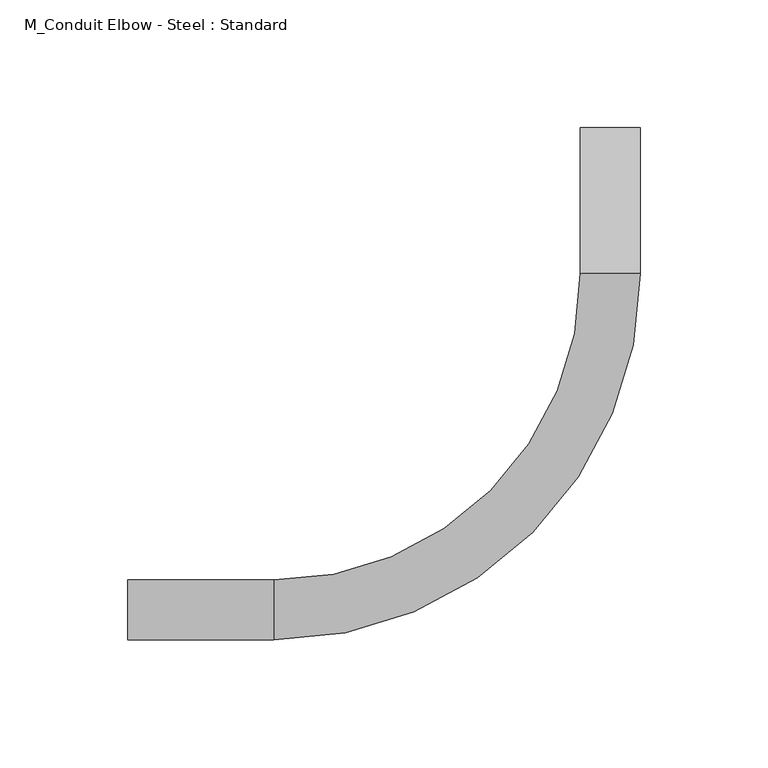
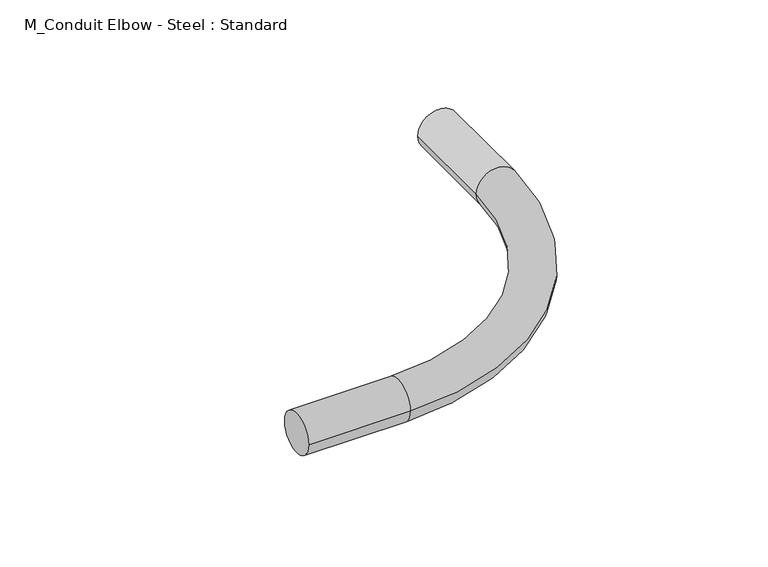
"""IFC4 building model written with IfcOpenShell, lengths in millimetres: cable carrier fitting geometry, M_Conduit Elbow - Steel : Standard."""

from ifc_helpers import new_model, si_unit, point, frame, origin, place, context, project, spatial, circle_curve, ellipse_curve, trimmed, source, transform, mapped, element, save
from ifc_brep_helpers import plane_surface, cylinder_surface, revolved_surface, advanced_brep


def m_conduit_elbow_steel_standard_2493cfc3(model_context):
    return source(origin(), model_context, "Body", "AdvancedBrep", [
        advanced_brep(
        [(-188.9134202, -11.7094, 0.0), (-188.9134202, 11.7094, 0.0), (-131.7634202, -11.7094, 0.0), (-131.7634202, 11.7094, 0.0), (-11.7103202, 131.7633384, 0.0), (11.7084798, 131.7635019, 0.0), (11.7080807, 188.9135019, 0.0), (-11.7107193, 188.9133384, 0.0)],
        [
            (0, 1, circle_curve(frame((-188.9134202, 0.0, 0.0), z_axis=(-1.0, 0.0, 0.0), x_axis=(0.0, 1.0, 0.0)), 11.7094)),
            (1, 0, circle_curve(frame((-188.9134202, 0.0, 0.0), z_axis=(-1.0, 0.0, 0.0), x_axis=(0.0, 1.0, 0.0)), 11.7094)),
            (0, 2),
            (2, 3, circle_curve(frame((-131.7634202, 0.0, 0.0), z_axis=(-1.0, 0.0, 0.0), x_axis=(0.0, 1.0, 0.0)), 11.7094)),
            (3, 1),
            (3, 2, circle_curve(frame((-131.7634202, 0.0, 0.0), z_axis=(-1.0, 0.0, 0.0), x_axis=(0.0, 1.0, 0.0)), 11.7094)),
            (4, 3, circle_curve(frame((-131.7634202, 131.7625, 0.0), z_axis=(0.0, 0.0, -1.0), x_axis=(0.0, -1.0, 0.0)), 120.0531)),
            (2, 5, circle_curve(frame((-131.7634202, 131.7625, 0.0), z_axis=(0.0, 0.0, 1.0), x_axis=(0.0, -1.0, 0.0)), 143.4719)),
            (5, 4, circle_curve(frame((-0.0009202, 131.7634202, 0.0), z_axis=(6.98350491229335e-06, -0.9999999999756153, 0.0), x_axis=(-0.9999999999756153, -6.98350491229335e-06, 0.0)), 11.7094)),
            (4, 5, circle_curve(frame((-0.0009202, 131.7634202, 0.0), z_axis=(6.98350491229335e-06, -0.9999999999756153, 0.0), x_axis=(-0.9999999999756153, -6.98350491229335e-06, 0.0)), 11.7094)),
            (6, 7, circle_curve(frame((-0.0013193, 188.9134202, 0.0), z_axis=(-6.983504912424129e-06, 0.9999999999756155, 0.0), x_axis=(-0.9999999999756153, -6.983504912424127e-06, 0.0)), 11.7094)),
            (7, 6, circle_curve(frame((-0.0013193, 188.9134202, 0.0), z_axis=(-6.983504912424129e-06, 0.9999999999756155, 0.0), x_axis=(-0.9999999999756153, -6.983504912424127e-06, 0.0)), 11.7094)),
            (5, 6),
            (7, 4),
        ],
        [
            plane_surface(frame((-188.9134202, 0.0, 0.0), z_axis=(-1.0, 0.0, 0.0), x_axis=(0.0, 0.0, 1.0))),
            cylinder_surface(frame((-188.9134202, 0.0, 0.0), z_axis=(-1.0, 0.0, 0.0), x_axis=(0.0, 1.0, 0.0)), 11.7094),
            revolved_surface(trimmed(ellipse_curve(frame((-131.7634202, 0.0, 0.0), z_axis=(-1.0, 0.0, 0.0), x_axis=(0.0, 1.0, 0.0)), 11.7094, 11.7094), [point((-131.7634202, -11.7094, 0.0))], [point((-131.7634202, 11.7094, 0.0))], True, "CARTESIAN"), (-131.7634202, 131.7625, 0.0), (0.0, 0.0, 1.0)),
            revolved_surface(trimmed(ellipse_curve(frame((-131.7634202, 0.0, 0.0), z_axis=(-1.0, 0.0, 0.0), x_axis=(0.0, 1.0, 0.0)), 11.7094, 11.7094), [point((-131.7634202, 11.7094, 0.0))], [point((-131.7634202, -11.7094, 0.0))], True, "CARTESIAN"), (-131.7634202, 131.7625, 0.0), (0.0, 0.0, 1.0)),
            plane_surface(frame((-0.0013193, 188.9134202, 0.0), z_axis=(-6.983504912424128e-06, 0.9999999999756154, 0.0), x_axis=(0.0, 0.0, 1.0))),
            cylinder_surface(frame((-0.0009202, 131.7634202, 0.0), z_axis=(6.983504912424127e-06, -0.9999999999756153, 0.0), x_axis=(-0.9999999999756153, -6.983504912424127e-06, 0.0)), 11.7094),
        ],
        [
            (0, [[1, 2]]),
            (1, [[-1, 3, 4, 5]]),
            (1, [[-2, -5, 6, -3]]),
            (2, [[7, -4, 8, 9]]),
            (3, [[-8, -6, -7, 10]]),
            (4, [[11, 12]]),
            (5, [[-9, 13, -12, 14]]),
            (5, [[-10, -14, -11, -13]]),
        ],
    ),
    ])


if __name__ == "__main__":
    model = new_model("IFC4")
    model_context = context("Model", 3, world=origin())
    ifc_project = project(units=[si_unit("LENGTHUNIT", "METRE", prefix="MILLI")], contexts=[model_context])
    site = spatial("IfcSite", under=ifc_project)
    building = spatial("IfcBuilding", under=site)
    placement = place(None, origin())
    m_conduit_elbow_steel_standard_shape = m_conduit_elbow_steel_standard_2493cfc3(model_context)
    element("IfcCableCarrierFitting", 1, ObjectType="M_Conduit Elbow - Steel : Standard", at=placement, inside=building, context=model_context, shape_type="MappedRepresentation", body=[
        mapped(m_conduit_elbow_steel_standard_shape, transform((0.0, 0.0, 0.0), x_axis=(1.0, 0.0, 0.0), y_axis=(0.0, 1.0, 0.0), z_axis=(0.0, 0.0, 1.0))),
    ])
    save(model, "model.ifc")
